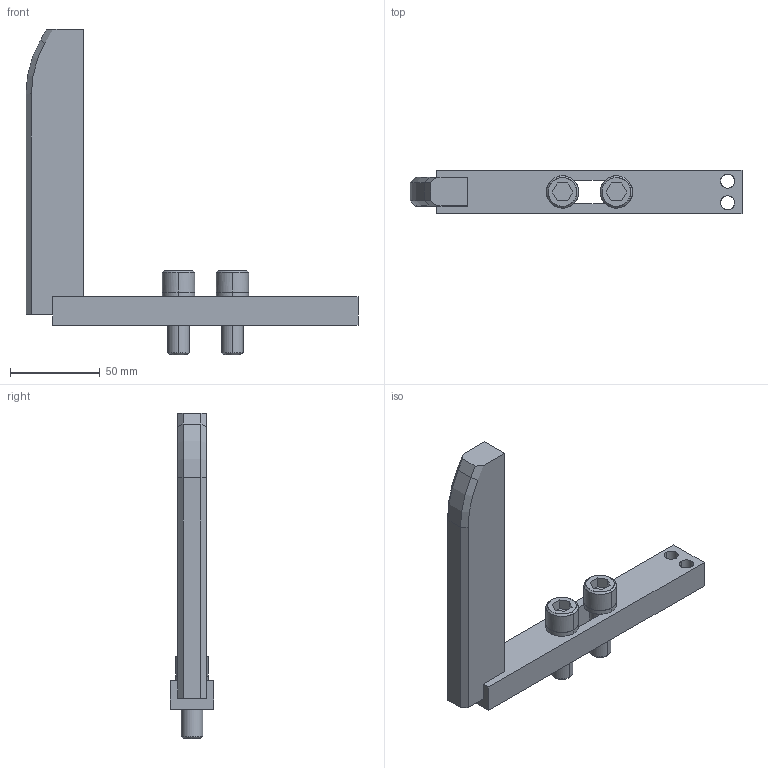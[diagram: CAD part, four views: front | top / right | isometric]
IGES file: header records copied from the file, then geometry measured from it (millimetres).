
Global section: file name: E:\UnigraphicsGraphicData\MISUMI_PRESS-PARTS\IGES\3d_ngnx-165-20-a170-b70-m12_01568_r00.igs; native system: NX V5.0; preprocessor: UGS NX IGES V5.0; author: MISUMI; date: 20110105.162104; units: millimetre
Bounding box: 185 x 24 x 181.5 mm (x, y, z)
Surface area: 37981.9 mm2 (no closed solid volume)
Topology: 0 solids, 0 shells, 100 faces, 630 edges, 630 vertices
Faces by surface type: bspline 100
